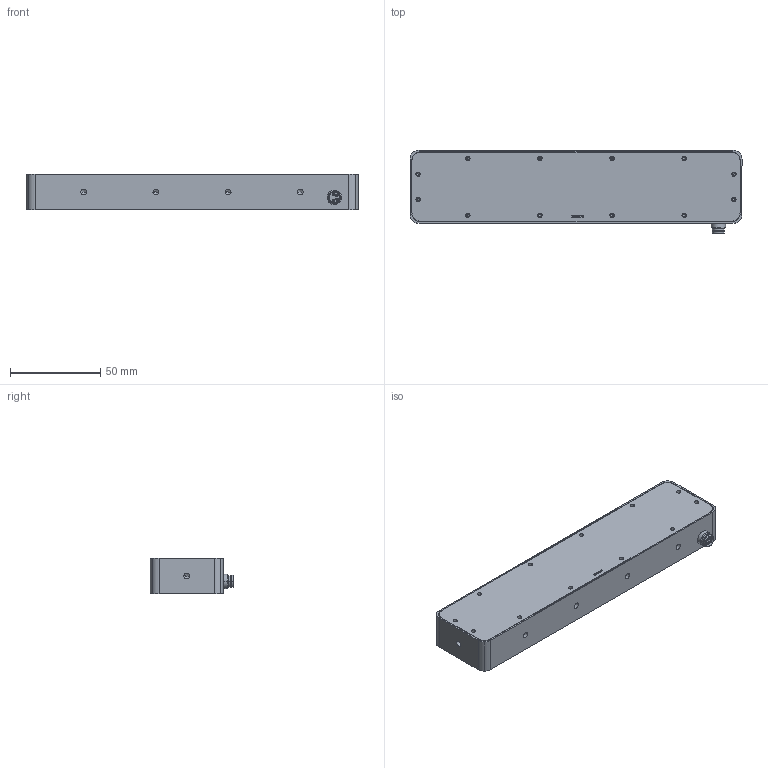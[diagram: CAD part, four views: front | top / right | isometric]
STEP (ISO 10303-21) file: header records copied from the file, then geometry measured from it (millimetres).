
FILE_DESCRIPTION(('STEP AP214'),'1');
FILE_NAME('Power-Line-160 Kundenmodell ohne KK.stp','2020-12-07T15:40:36',(' '),(' '),'Spatial InterOp 3D',' ',' ');
FILE_SCHEMA(('AUTOMOTIVE_DESIGN { 1 0 10303 214 1 1 1 1 }'));
Length unit declared in the file: metre
Products named in the file (1): Volumenkörper
Bounding box: 184.2 x 46.31 x 19.8 mm (x, y, z)
Volume: 113922.1 mm3; surface area: 42113.5 mm2
Topology: 1 solids, 3 shells, 513 faces, 1246 edges, 751 vertices
Faces by surface type: cylinder 229, plane 161, cone 84, sphere 16, extrusion 15, bspline 6, torus 2
Entity records: 15890 total; most frequent: CARTESIAN_POINT 3149, DIRECTION 2635, ORIENTED_EDGE 2340, EDGE_CURVE 1170, AXIS2_PLACEMENT_3D 1002, VERTEX_POINT 751, VECTOR 631, LINE 616
